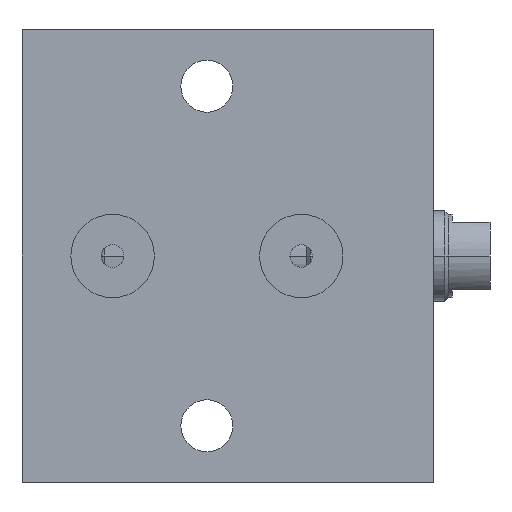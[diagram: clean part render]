
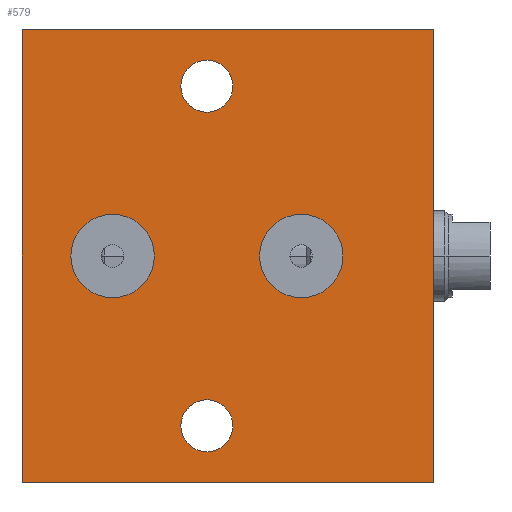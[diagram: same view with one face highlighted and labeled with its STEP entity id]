
A CAD part, front view. The second image highlights one B-rep face of the part: STEP entity #579.
In plain terms, the highlighted planar face has unit normal (0, -1, 0).
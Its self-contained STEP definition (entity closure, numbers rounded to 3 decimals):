
#1=DIRECTION('',(0.,0.,1.));
#2=VECTOR('',#1,60.);
#3=CARTESIAN_POINT('',(-54.5,-20.,-30.));
#4=LINE('',#3,#2);
#5=DIRECTION('',(1.,0.,0.));
#6=VECTOR('',#5,54.5);
#7=CARTESIAN_POINT('',(-54.5,-20.,30.));
#8=LINE('',#7,#6);
#9=DIRECTION('',(0.,0.,-1.));
#10=VECTOR('',#9,60.);
#11=CARTESIAN_POINT('',(0.,-20.,30.));
#12=LINE('',#11,#10);
#13=DIRECTION('',(-1.,0.,0.));
#14=VECTOR('',#13,54.5);
#15=CARTESIAN_POINT('',(0.,-20.,-30.));
#16=LINE('',#15,#14);
#17=CARTESIAN_POINT('',(-30.,-20.,-22.5));
#18=DIRECTION('',(0.,-1.,0.));
#19=DIRECTION('',(1.,0.,0.));
#20=AXIS2_PLACEMENT_3D('',#17,#18,#19);
#22=CARTESIAN_POINT('',(-30.,-20.,-22.5));
#23=DIRECTION('',(0.,-1.,0.));
#24=DIRECTION('',(-1.,0.,0.));
#25=AXIS2_PLACEMENT_3D('',#22,#23,#24);
#27=CARTESIAN_POINT('',(-30.,-20.,22.5));
#28=DIRECTION('',(0.,1.,0.));
#29=DIRECTION('',(1.,0.,0.));
#30=AXIS2_PLACEMENT_3D('',#27,#28,#29);
#32=CARTESIAN_POINT('',(-30.,-20.,22.5));
#33=DIRECTION('',(0.,1.,0.));
#34=DIRECTION('',(-1.,0.,0.));
#35=AXIS2_PLACEMENT_3D('',#32,#33,#34);
#37=CARTESIAN_POINT('',(-17.5,-20.,0.));
#38=DIRECTION('',(0.,1.,0.));
#39=DIRECTION('',(-1.,0.,0.));
#40=AXIS2_PLACEMENT_3D('',#37,#38,#39);
#42=CARTESIAN_POINT('',(-17.5,-20.,0.));
#43=DIRECTION('',(0.,1.,0.));
#44=DIRECTION('',(1.,0.,0.));
#45=AXIS2_PLACEMENT_3D('',#42,#43,#44);
#47=CARTESIAN_POINT('',(-42.5,-20.,0.));
#48=DIRECTION('',(0.,1.,0.));
#49=DIRECTION('',(-1.,0.,0.));
#50=AXIS2_PLACEMENT_3D('',#47,#48,#49);
#52=CARTESIAN_POINT('',(-42.5,-20.,0.));
#53=DIRECTION('',(0.,1.,0.));
#54=DIRECTION('',(1.,0.,0.));
#55=AXIS2_PLACEMENT_3D('',#52,#53,#54);
#439=CARTESIAN_POINT('',(-54.5,-20.,-30.));
#440=CARTESIAN_POINT('',(-54.5,-20.,30.));
#441=VERTEX_POINT('',#439);
#442=VERTEX_POINT('',#440);
#443=CARTESIAN_POINT('',(0.,-20.,30.));
#444=VERTEX_POINT('',#443);
#445=CARTESIAN_POINT('',(0.,-20.,-30.));
#446=VERTEX_POINT('',#445);
#455=CARTESIAN_POINT('',(-26.55,-20.,-22.5));
#456=CARTESIAN_POINT('',(-33.45,-20.,-22.5));
#457=VERTEX_POINT('',#455);
#458=VERTEX_POINT('',#456);
#464=CARTESIAN_POINT('',(-26.55,-20.,22.5));
#466=VERTEX_POINT('',#464);
#468=CARTESIAN_POINT('',(-33.45,-20.,22.5));
#470=VERTEX_POINT('',#468);
#520=CARTESIAN_POINT('',(-23.025,-20.,0.));
#521=CARTESIAN_POINT('',(-11.975,-20.,0.));
#522=VERTEX_POINT('',#520);
#523=VERTEX_POINT('',#521);
#532=CARTESIAN_POINT('',(-48.025,-20.,0.));
#533=CARTESIAN_POINT('',(-36.975,-20.,0.));
#534=VERTEX_POINT('',#532);
#535=VERTEX_POINT('',#533);
#540=CARTESIAN_POINT('',(0.,-20.,0.));
#541=DIRECTION('',(0.,1.,0.));
#542=DIRECTION('',(1.,0.,0.));
#543=AXIS2_PLACEMENT_3D('',#540,#541,#542);
#544=PLANE('',#543);
#546=ORIENTED_EDGE('',*,*,#545,.T.);
#548=ORIENTED_EDGE('',*,*,#547,.T.);
#550=ORIENTED_EDGE('',*,*,#549,.T.);
#552=ORIENTED_EDGE('',*,*,#551,.T.);
#553=EDGE_LOOP('',(#546,#548,#550,#552));
#554=FACE_OUTER_BOUND('',#553,.F.);
#556=ORIENTED_EDGE('',*,*,#555,.T.);
#558=ORIENTED_EDGE('',*,*,#557,.T.);
#559=EDGE_LOOP('',(#556,#558));
#560=FACE_BOUND('',#559,.F.);
#562=ORIENTED_EDGE('',*,*,#561,.F.);
#564=ORIENTED_EDGE('',*,*,#563,.F.);
#565=EDGE_LOOP('',(#562,#564));
#566=FACE_BOUND('',#565,.F.);
#568=ORIENTED_EDGE('',*,*,#567,.F.);
#570=ORIENTED_EDGE('',*,*,#569,.F.);
#571=EDGE_LOOP('',(#568,#570));
#572=FACE_BOUND('',#571,.F.);
#574=ORIENTED_EDGE('',*,*,#573,.F.);
#576=ORIENTED_EDGE('',*,*,#575,.F.);
#577=EDGE_LOOP('',(#574,#576));
#578=FACE_BOUND('',#577,.F.);
#579=ADVANCED_FACE('',(#554,#560,#566,#572,#578),#544,.F.);
#21=CIRCLE('',#20,3.45);
#26=CIRCLE('',#25,3.45);
#31=CIRCLE('',#30,3.45);
#36=CIRCLE('',#35,3.45);
#41=CIRCLE('',#40,5.525);
#46=CIRCLE('',#45,5.525);
#51=CIRCLE('',#50,5.525);
#56=CIRCLE('',#55,5.525);
#545=EDGE_CURVE('',#441,#442,#4,.T.);
#547=EDGE_CURVE('',#442,#444,#8,.T.);
#549=EDGE_CURVE('',#444,#446,#12,.T.);
#551=EDGE_CURVE('',#446,#441,#16,.T.);
#555=EDGE_CURVE('',#457,#458,#21,.T.);
#557=EDGE_CURVE('',#458,#457,#26,.T.);
#561=EDGE_CURVE('',#466,#470,#31,.T.);
#563=EDGE_CURVE('',#470,#466,#36,.T.);
#567=EDGE_CURVE('',#522,#523,#41,.T.);
#569=EDGE_CURVE('',#523,#522,#46,.T.);
#573=EDGE_CURVE('',#534,#535,#51,.T.);
#575=EDGE_CURVE('',#535,#534,#56,.T.);
